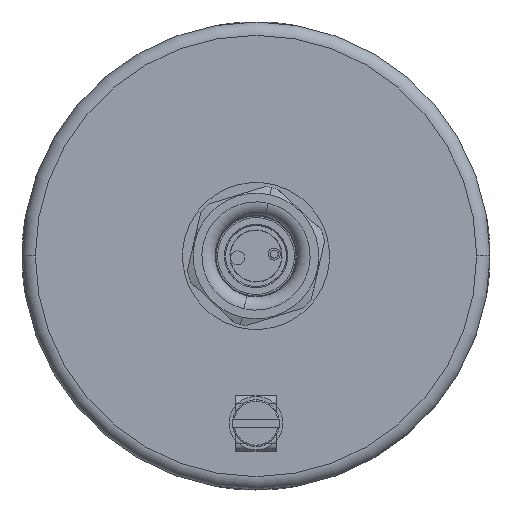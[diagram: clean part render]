
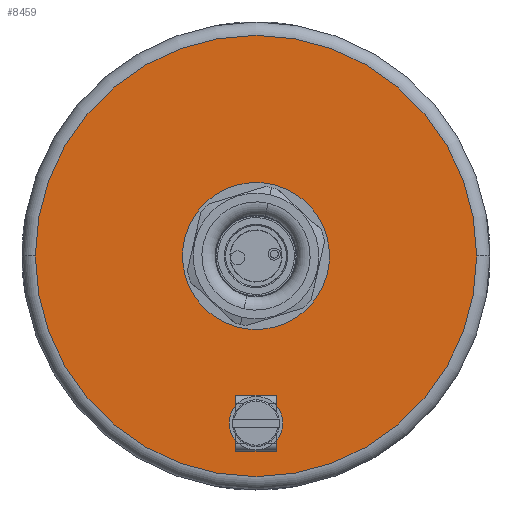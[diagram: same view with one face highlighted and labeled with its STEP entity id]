
A CAD part, left-side view. The second image highlights one B-rep face of the part: STEP entity #8459.
In plain terms, the highlighted planar face has unit normal (-1, 0, 0).
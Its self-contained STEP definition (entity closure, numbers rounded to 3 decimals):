
#3622 = CARTESIAN_POINT ( 'NONE',  ( -70.2, -33., 0. ) ) ;
#3712 = DIRECTION ( 'NONE',  ( 0., -1., 0. ) ) ;
#3713 = DIRECTION ( 'NONE',  ( -1., 0., 0. ) ) ;
#3714 = CARTESIAN_POINT ( 'NONE',  ( -70.2, 0., 0. ) ) ;
#3715 = AXIS2_PLACEMENT_3D ( 'NONE', #3714, #3713, #3712 ) ;
#3716 = CIRCLE ( 'NONE', #3715, 33. ) ;
#3717 = CARTESIAN_POINT ( 'NONE',  ( -70.2, -2.7, -25. ) ) ;
#3742 = DIRECTION ( 'NONE',  ( 0., 1., 0. ) ) ;
#3743 = DIRECTION ( 'NONE',  ( 1., 0., 0. ) ) ;
#3744 = CARTESIAN_POINT ( 'NONE',  ( -70.2, 0., 0. ) ) ;
#3745 = AXIS2_PLACEMENT_3D ( 'NONE', #3744, #3743, #3742 ) ;
#3747 = PLANE ( 'NONE',  #3745 ) ;
#3805 = FACE_OUTER_BOUND ( 'NONE', #8536, .T. ) ;
#3806 = FACE_BOUND ( 'NONE', #8529, .T. ) ;
#3807 = FACE_BOUND ( 'NONE', #8460, .T. ) ;
#3902 = DIRECTION ( 'NONE',  ( 0., -1., 0. ) ) ;
#3903 = DIRECTION ( 'NONE',  ( -1., 0., 0. ) ) ;
#3904 = CARTESIAN_POINT ( 'NONE',  ( -70.2, 0., 0. ) ) ;
#3905 = AXIS2_PLACEMENT_3D ( 'NONE', #3904, #3903, #3902 ) ;
#3906 = CIRCLE ( 'NONE', #3905, 33. ) ;
#3907 = DIRECTION ( 'NONE',  ( 0., -1., 0. ) ) ;
#3908 = DIRECTION ( 'NONE',  ( -1., 0., 0. ) ) ;
#3909 = CARTESIAN_POINT ( 'NONE',  ( -70.2, 0., 0. ) ) ;
#3910 = AXIS2_PLACEMENT_3D ( 'NONE', #3909, #3908, #3907 ) ;
#3911 = CIRCLE ( 'NONE', #3910, 7.25 ) ;
#3912 = CARTESIAN_POINT ( 'NONE',  ( -70.2, 7.25, 0. ) ) ;
#3913 = CARTESIAN_POINT ( 'NONE',  ( -70.2, -7.25, 0. ) ) ;
#3914 = DIRECTION ( 'NONE',  ( 0., -1., 0. ) ) ;
#3915 = DIRECTION ( 'NONE',  ( -1., 0., 0. ) ) ;
#3916 = CARTESIAN_POINT ( 'NONE',  ( -70.2, 0., 0. ) ) ;
#3917 = AXIS2_PLACEMENT_3D ( 'NONE', #3916, #3915, #3914 ) ;
#3918 = CIRCLE ( 'NONE', #3917, 7.25 ) ;
#3919 = DIRECTION ( 'NONE',  ( 0., -1., 0. ) ) ;
#3920 = DIRECTION ( 'NONE',  ( -1., 0., 0. ) ) ;
#3921 = CARTESIAN_POINT ( 'NONE',  ( -70.2, 0., -25. ) ) ;
#3922 = AXIS2_PLACEMENT_3D ( 'NONE', #3921, #3920, #3919 ) ;
#3923 = CIRCLE ( 'NONE', #3922, 2.7 ) ;
#3925 = CARTESIAN_POINT ( 'NONE',  ( -70.2, 2.7, -25. ) ) ;
#3926 = DIRECTION ( 'NONE',  ( 0., -1., 0. ) ) ;
#3927 = DIRECTION ( 'NONE',  ( -1., 0., 0. ) ) ;
#4022 = AXIS2_PLACEMENT_3D ( 'NONE', #4027, #3927, #3926 ) ;
#4023 = CIRCLE ( 'NONE', #4022, 2.7 ) ;
#4027 = CARTESIAN_POINT ( 'NONE',  ( -70.2, 0., -25. ) ) ;
#4034 = CARTESIAN_POINT ( 'NONE',  ( -70.2, 33., 0. ) ) ;
#8459 = ADVANCED_FACE ( 'NONE', ( #3807, #3806, #3805 ), #3747, .F. ) ;
#8460 = EDGE_LOOP ( 'NONE', ( #8523, #8527 ) ) ;
#8497 = VERTEX_POINT ( 'NONE', #3717 ) ;
#8499 = EDGE_CURVE ( 'NONE', #8500, #8514, #3716, .T. ) ;
#8500 = VERTEX_POINT ( 'NONE', #3622 ) ;
#8514 = VERTEX_POINT ( 'NONE', #4034 ) ;
#8523 = ORIENTED_EDGE ( 'NONE', *, *, #8524, .F. ) ;
#8524 = EDGE_CURVE ( 'NONE', #8497, #8525, #4023, .T. ) ;
#8525 = VERTEX_POINT ( 'NONE', #3925 ) ;
#8527 = ORIENTED_EDGE ( 'NONE', *, *, #8528, .F. ) ;
#8528 = EDGE_CURVE ( 'NONE', #8525, #8497, #3923, .T. ) ;
#8529 = EDGE_LOOP ( 'NONE', ( #8530, #8534 ) ) ;
#8530 = ORIENTED_EDGE ( 'NONE', *, *, #8531, .F. ) ;
#8531 = EDGE_CURVE ( 'NONE', #8532, #8533, #3918, .T. ) ;
#8532 = VERTEX_POINT ( 'NONE', #3913 ) ;
#8533 = VERTEX_POINT ( 'NONE', #3912 ) ;
#8534 = ORIENTED_EDGE ( 'NONE', *, *, #8535, .F. ) ;
#8535 = EDGE_CURVE ( 'NONE', #8533, #8532, #3911, .T. ) ;
#8536 = EDGE_LOOP ( 'NONE', ( #8537, #8538 ) ) ;
#8537 = ORIENTED_EDGE ( 'NONE', *, *, #8499, .T. ) ;
#8538 = ORIENTED_EDGE ( 'NONE', *, *, #8539, .T. ) ;
#8539 = EDGE_CURVE ( 'NONE', #8514, #8500, #3906, .T. ) ;
